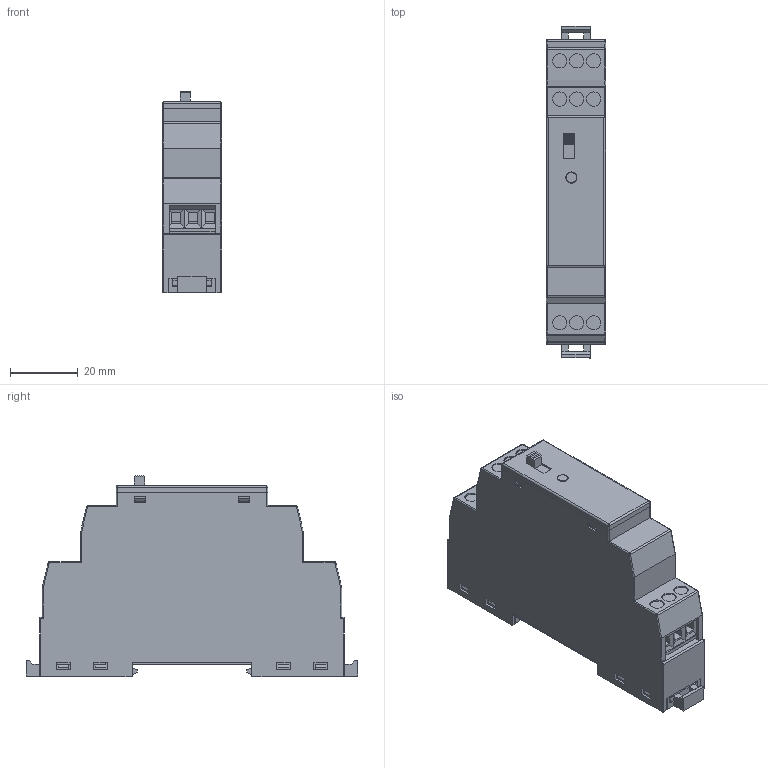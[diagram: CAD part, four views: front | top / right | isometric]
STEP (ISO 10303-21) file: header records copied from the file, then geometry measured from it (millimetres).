
FILE_DESCRIPTION (( 'STEP AP214' ), '1' );
FILE_NAME ('CMA-D1.STEP', '2024-12-12T08:20:38', ( '' ), ( '' ), 'SwSTEP 2.0', 'SolidWorks 2024', '' );
FILE_SCHEMA (( 'AUTOMOTIVE_DESIGN' ));
Length unit declared in the file: millimetre
Products named in the file (1): CMA-D1
Bounding box: 17.5 x 98 x 59.45 mm (x, y, z)
Volume: 72167 mm3; surface area: 19117.9 mm2
Topology: 1 solids, 1 shells, 931 faces, 2376 edges, 1448 vertices
Faces by surface type: plane 612, bspline 208, cylinder 93, torus 12, cone 4, sphere 2
Entity records: 30585 total; most frequent: CARTESIAN_POINT 8724, ORIENTED_EDGE 4742, DIRECTION 4289, EDGE_CURVE 2371, LINE 1765, VECTOR 1765, VERTEX_POINT 1448, AXIS2_PLACEMENT_3D 1262
